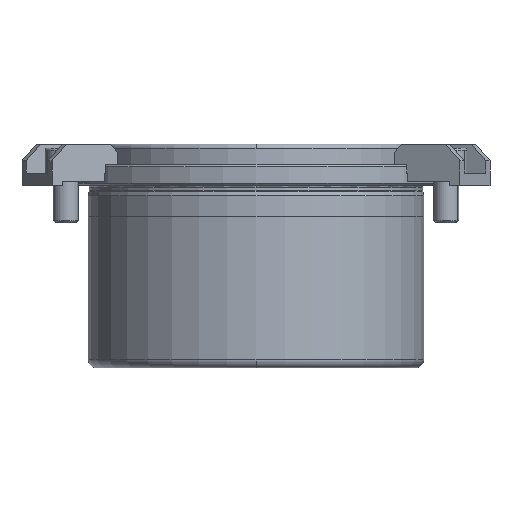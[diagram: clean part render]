
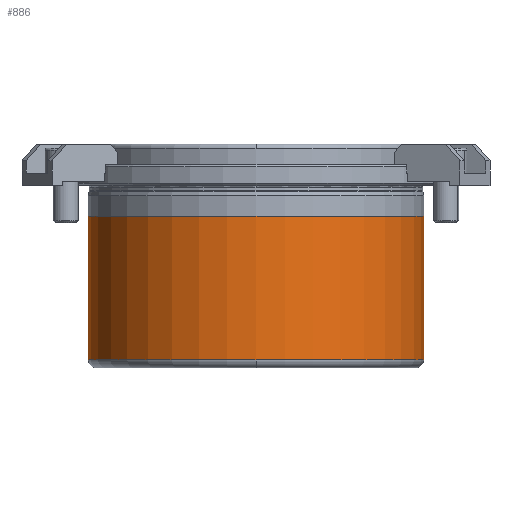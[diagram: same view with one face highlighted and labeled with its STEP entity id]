
A CAD part, front view. The second image highlights one B-rep face of the part: STEP entity #886.
In plain terms, the highlighted cylindrical face has radius 40.496 mm (diameter 80.992 mm), a partial arc.
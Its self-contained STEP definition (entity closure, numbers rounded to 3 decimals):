
#836=CARTESIAN_POINT('',(0.0,0.,-24.7));
#837=DIRECTION('',(0.0,0.,1.0));
#838=DIRECTION('',(1.0,0.0,0.0));
#839=AXIS2_PLACEMENT_3D('',#836,#837,#838);
#840=CYLINDRICAL_SURFACE('',#839,40.496);
#841=CARTESIAN_POINT('',(40.496,0.,-7.4));
#842=VERTEX_POINT('',#841);
#843=CARTESIAN_POINT('',(40.496,0.,-42.0));
#844=VERTEX_POINT('',#843);
#845=CARTESIAN_POINT('',(40.496,0.,-7.4));
#846=DIRECTION('',(0.0,0.0,-1.0));
#847=VECTOR('',#846,34.6);
#848=LINE('',#845,#847);
#849=EDGE_CURVE('',#842,#844,#848,.T.);
#850=ORIENTED_EDGE('',*,*,#849,.F.);
#851=CARTESIAN_POINT('',(-40.496,0.,-7.4));
#852=VERTEX_POINT('',#851);
#853=CARTESIAN_POINT('',(0.0,0.,-7.4));
#854=DIRECTION('',(0.0,0.0,1.0));
#855=DIRECTION('',(1.0,0.0,0.0));
#856=AXIS2_PLACEMENT_3D('',#853,#854,#855);
#857=CIRCLE('',#856,40.496);
#858=EDGE_CURVE('',#852,#842,#857,.T.);
#859=ORIENTED_EDGE('',*,*,#858,.F.);
#860=CARTESIAN_POINT('',(-40.496,0.,-42.0));
#861=VERTEX_POINT('',#860);
#862=CARTESIAN_POINT('',(-40.496,0.,-7.4));
#863=DIRECTION('',(0.0,0.0,-1.0));
#864=VECTOR('',#863,34.6);
#865=LINE('',#862,#864);
#866=EDGE_CURVE('',#852,#861,#865,.T.);
#867=ORIENTED_EDGE('',*,*,#866,.T.);
#868=CARTESIAN_POINT('',(0.0,-40.496,-42.0));
#869=VERTEX_POINT('',#868);
#870=CARTESIAN_POINT('',(0.0,0.,-42.0));
#871=DIRECTION('',(0.0,0.0,1.0));
#872=DIRECTION('',(1.0,0.0,0.0));
#873=AXIS2_PLACEMENT_3D('',#870,#871,#872);
#874=CIRCLE('',#873,40.496);
#875=EDGE_CURVE('',#861,#869,#874,.T.);
#876=ORIENTED_EDGE('',*,*,#875,.T.);
#877=CARTESIAN_POINT('',(0.0,0.,-42.0));
#878=DIRECTION('',(0.0,0.0,1.0));
#879=DIRECTION('',(1.0,0.0,0.0));
#880=AXIS2_PLACEMENT_3D('',#877,#878,#879);
#881=CIRCLE('',#880,40.496);
#882=EDGE_CURVE('',#869,#844,#881,.T.);
#883=ORIENTED_EDGE('',*,*,#882,.T.);
#884=EDGE_LOOP('',(#850,#859,#867,#876,#883));
#885=FACE_OUTER_BOUND('',#884,.T.);
#886=ADVANCED_FACE('',(#885),#840,.T.);
